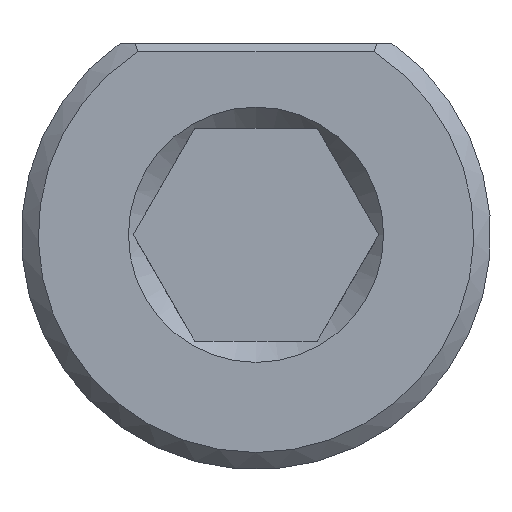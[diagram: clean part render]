
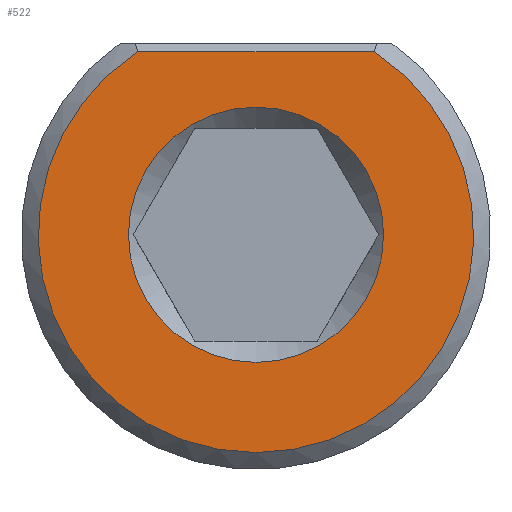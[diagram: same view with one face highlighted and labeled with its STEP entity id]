
A CAD part, front view. The second image highlights one B-rep face of the part: STEP entity #522.
In plain terms, the highlighted planar face has unit normal (0, -1, 0).
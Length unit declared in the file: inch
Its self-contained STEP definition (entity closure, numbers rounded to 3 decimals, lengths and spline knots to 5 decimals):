
#46=PLANE('',#580);
#59=FACE_BOUND('',#115,.T.);
#82=FACE_OUTER_BOUND('',#114,.T.);
#114=EDGE_LOOP('',(#410,#411));
#115=EDGE_LOOP('',(#412));
#145=LINE('',#871,#175);
#175=VECTOR('',#670,0.3937);
#204=CIRCLE('',#578,0.256);
#206=CIRCLE('',#581,0.15);
#240=VERTEX_POINT('',#866);
#241=VERTEX_POINT('',#870);
#242=VERTEX_POINT('',#879);
#303=EDGE_CURVE('',#240,#241,#145,.T.);
#305=EDGE_CURVE('',#241,#240,#204,.T.);
#307=EDGE_CURVE('',#242,#242,#206,.T.);
#410=ORIENTED_EDGE('',*,*,#303,.F.);
#411=ORIENTED_EDGE('',*,*,#305,.F.);
#412=ORIENTED_EDGE('',*,*,#307,.F.);
#522=ADVANCED_FACE('',(#82,#59),#46,.T.);
#578=AXIS2_PLACEMENT_3D('',#876,#673,#674);
#580=AXIS2_PLACEMENT_3D('',#878,#677,#678);
#581=AXIS2_PLACEMENT_3D('',#880,#679,#680);
#670=DIRECTION('',(1.,0.,0.));
#673=DIRECTION('center_axis',(0.,1.,0.));
#674=DIRECTION('ref_axis',(0.,0.,1.));
#677=DIRECTION('center_axis',(0.,-1.,0.));
#678=DIRECTION('ref_axis',(0.,0.,-1.));
#679=DIRECTION('center_axis',(0.,-1.,0.));
#680=DIRECTION('ref_axis',(0.,0.,1.));
#866=CARTESIAN_POINT('',(-0.13896,0.,0.215));
#870=CARTESIAN_POINT('',(0.13896,0.,0.215));
#871=CARTESIAN_POINT('',(0.13717,0.,0.215));
#876=CARTESIAN_POINT('Origin',(0.,0.,0.));
#878=CARTESIAN_POINT('Origin',(0.,0.,-0.125));
#879=CARTESIAN_POINT('',(0.,0.,-0.15));
#880=CARTESIAN_POINT('Origin',(0.,0.,0.));
